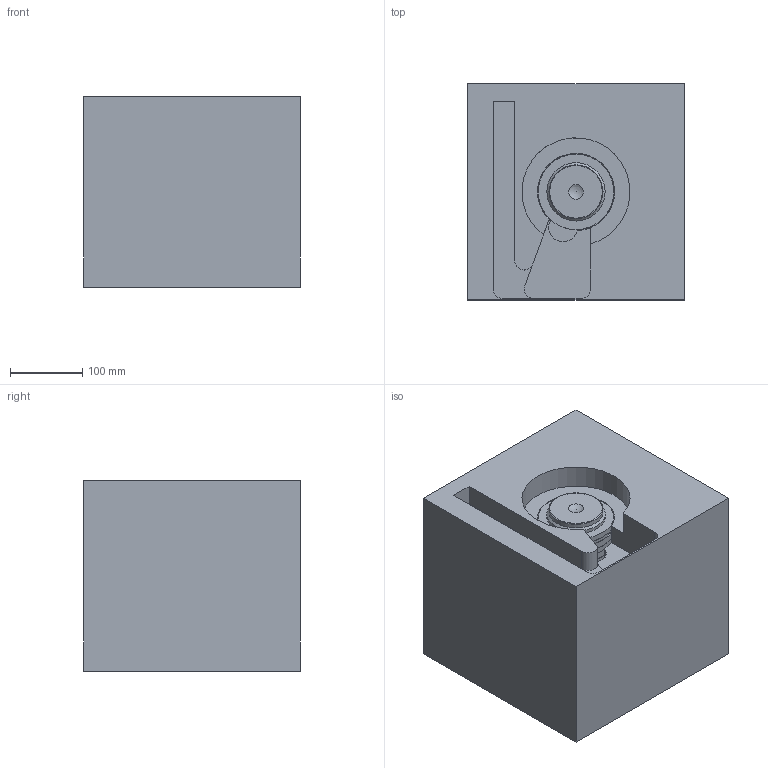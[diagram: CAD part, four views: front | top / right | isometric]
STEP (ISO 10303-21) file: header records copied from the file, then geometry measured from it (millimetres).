
FILE_DESCRIPTION( ( 'STEP AP214' ), '1' );
FILE_NAME( 'S:/PROIECTE_YUDO_2009_dupa_1.07.2009/PROIECTE YUDO 3D 01.07.2009/SAS/YUEU09-SAS32VC232_4/YUEU09-SAS32VC232.step', '2009-07-02T11:54:47', ( ' ' ), ( ' ' ), 'XStep 1.0', ' ', ' ' );
FILE_SCHEMA( ( 'automotive_design' ) );
Length unit declared in the file: millimetre
Products named in the file (4): 1; 2; 3; 4
Bounding box: 300 x 300 x 265 mm (x, y, z)
Volume: 22527212.8 mm3; surface area: 685334.1 mm2
Topology: 4 solids, 4 shells, 100 faces, 198 edges, 129 vertices
Faces by surface type: plane 47, cylinder 37, cone 11, torus 4, sphere 1
Full cylindrical faces by diameter (mm): 4 x2, 6 x6, 6.5 x1, 20 x1, 24 x1, 31 x1, 32 x3, 32.1 x1, 44 x1, 47 x1, 75 x1, 81 x1, 104 x4, 105 x5
Entity records: 3169 total; most frequent: DIRECTION 440, CARTESIAN_POINT 375, ORIENTED_EDGE 290, AXIS2_PLACEMENT_3D 193, EDGE_LOOP 171, EDGE_CURVE 145, FACE_OUTER_BOUND 133, VERTEX_POINT 120
